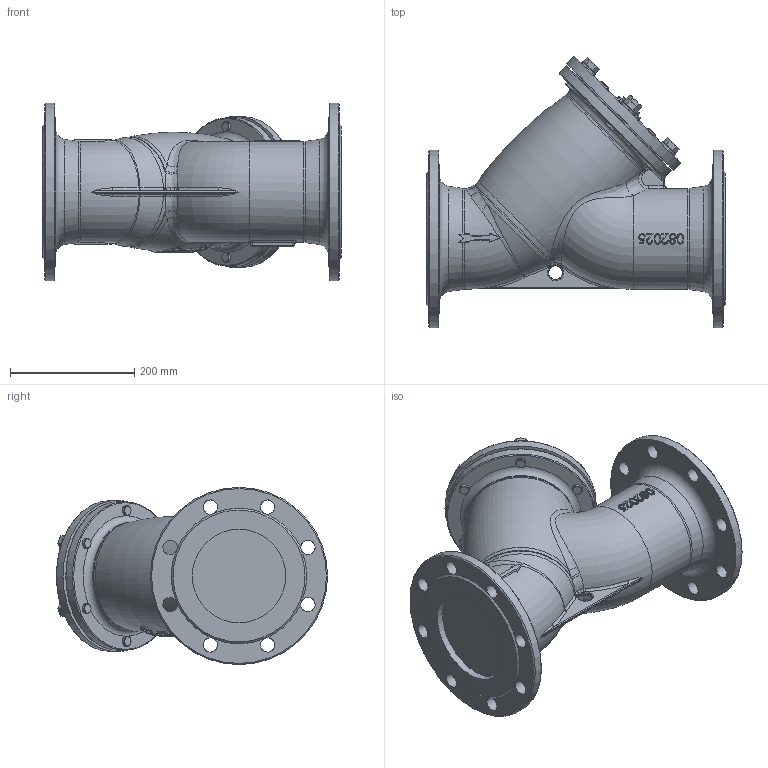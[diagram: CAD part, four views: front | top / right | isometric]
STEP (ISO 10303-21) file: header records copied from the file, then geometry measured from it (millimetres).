
FILE_DESCRIPTION (( 'STEP AP214' ), '1' );
FILE_NAME ('DN150.STEP', '2026-09-13T13:08:08', ( '' ), ( '' ), 'SwSTEP 2.0', 'SolidWorks 2024', '' );
FILE_SCHEMA (( 'AUTOMOTIVE_DESIGN' ));
Length unit declared in the file: millimetre
Products named in the file (1): DN150
Bounding box: 480 x 436.13 x 285 mm (x, y, z)
Volume: 16376595.9 mm3; surface area: 778255.2 mm2
Topology: 1 solids, 5 shells, 1041 faces, 2790 edges, 1813 vertices
Faces by surface type: bspline 557, plane 228, cylinder 116, cone 86, torus 54
Full cylindrical faces by diameter (mm): 16 x18, 17.5 x6, 18 x6, 23 x16, 26.4 x1, 27 x1, 30 x6, 36 x1, 38 x1, 40 x1, 150 x2, 162 x1, 180 x1, 182 x1, 239 x1, 285 x2
Entity records: 69802 total; most frequent: CARTESIAN_POINT 39106, ORIENTED_EDGE 5166, EDGE_CURVE 2583, DIRECTION 2250, VERTEX_POINT 1723, B_SPLINE_CURVE_WITH_KNOTS 1657, EDGE_LOOP 1270, FACE_OUTER_BOUND 1116
